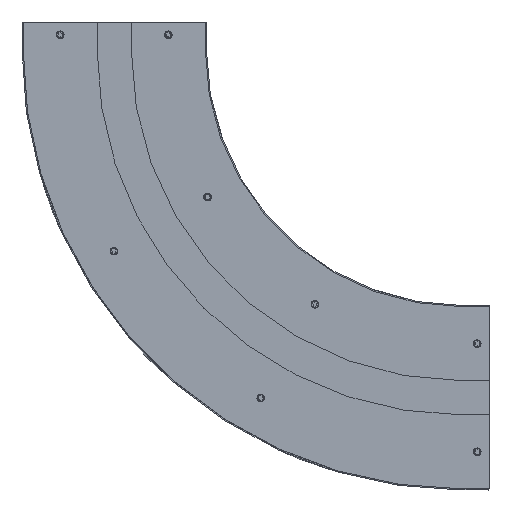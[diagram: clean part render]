
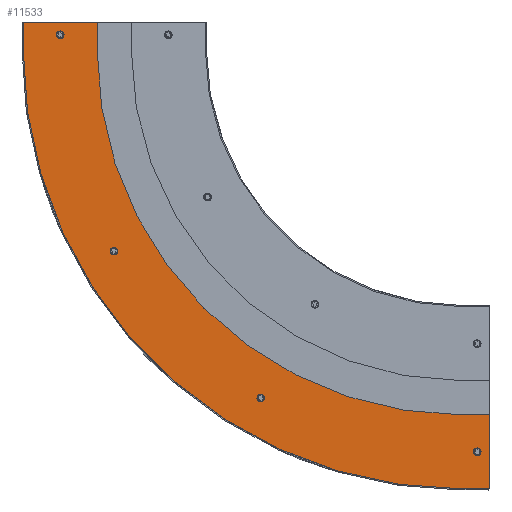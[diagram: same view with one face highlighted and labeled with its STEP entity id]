
A CAD part, front view. The second image highlights one B-rep face of the part: STEP entity #11533.
In plain terms, the highlighted planar face has unit normal (0, -1, 0) as drawn and (0, 1, 0) by its records, which use the part's own axes.
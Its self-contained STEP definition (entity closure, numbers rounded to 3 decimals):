
#228 = PLANE ( 'NONE',  #958 ) ;
#295 = CARTESIAN_POINT ( 'NONE',  ( 660., 30., -690. ) ) ;
#396 = DIRECTION ( 'NONE',  ( 0., 0., 1. ) ) ;
#429 = CIRCLE ( 'NONE', #7215, 6.75 ) ;
#430 = VECTOR ( 'NONE', #11339, 1000. ) ;
#447 = LINE ( 'NONE', #11440, #430 ) ;
#686 = AXIS2_PLACEMENT_3D ( 'NONE', #2757, #2740, #2728 ) ;
#958 = AXIS2_PLACEMENT_3D ( 'NONE', #2976, #12607, #396 ) ;
#1058 = EDGE_CURVE ( 'NONE', #6617, #14542, #429, .T. ) ;
#1425 = CIRCLE ( 'NONE', #12977, 6.75 ) ;
#1622 = CARTESIAN_POINT ( 'NONE',  ( 257.5, 30., -660.548 ) ) ;
#1738 = VECTOR ( 'NONE', #15680, 1000. ) ;
#1757 = DIRECTION ( 'NONE',  ( 0., 0., 1. ) ) ;
#1773 = VERTEX_POINT ( 'NONE', #2169 ) ;
#1780 = LINE ( 'NONE', #2605, #1738 ) ;
#1938 = VERTEX_POINT ( 'NONE', #12393 ) ;
#2169 = CARTESIAN_POINT ( 'NONE',  ( 610., 30., -820. ) ) ;
#2340 = CARTESIAN_POINT ( 'NONE',  ( -95., 30., -29.25 ) ) ;
#2576 = VERTEX_POINT ( 'NONE', #4975 ) ;
#2605 = CARTESIAN_POINT ( 'NONE',  ( -30., 30., -50. ) ) ;
#2651 = EDGE_CURVE ( 'NONE', #5596, #1773, #12566, .T. ) ;
#2689 = CARTESIAN_POINT ( 'NONE',  ( 637.5, 30., -761.75 ) ) ;
#2728 = DIRECTION ( 'NONE',  ( 0., 0., 1. ) ) ;
#2740 = DIRECTION ( 'NONE',  ( 0., 1., 0. ) ) ;
#2757 = CARTESIAN_POINT ( 'NONE',  ( -0.548, 30., -402.5 ) ) ;
#2770 = EDGE_CURVE ( 'NONE', #5596, #14225, #12244, .T. ) ;
#2797 = EDGE_CURVE ( 'NONE', #8801, #11331, #12148, .T. ) ;
#2954 = ORIENTED_EDGE ( 'NONE', *, *, #12066, .F. ) ;
#2976 = CARTESIAN_POINT ( 'NONE',  ( -160., 30., -50. ) ) ;
#3252 = DIRECTION ( 'NONE',  ( 0., 0., 1. ) ) ;
#3396 = DIRECTION ( 'NONE',  ( 0., 1., 0. ) ) ;
#3474 = CARTESIAN_POINT ( 'NONE',  ( 257.5, 30., -660.548 ) ) ;
#3512 = EDGE_LOOP ( 'NONE', ( #14148, #5740, #11154, #13895, #14300, #15854, #4235, #4360 ) ) ;
#3587 = CARTESIAN_POINT ( 'NONE',  ( -0.548, 30., -395.75 ) ) ;
#3812 = EDGE_CURVE ( 'NONE', #11331, #4260, #10540, .T. ) ;
#4034 = DIRECTION ( 'NONE',  ( 0., 0., 1. ) ) ;
#4179 = CARTESIAN_POINT ( 'NONE',  ( 610., 30., -690. ) ) ;
#4235 = ORIENTED_EDGE ( 'NONE', *, *, #2651, .F. ) ;
#4260 = VERTEX_POINT ( 'NONE', #13494 ) ;
#4261 = AXIS2_PLACEMENT_3D ( 'NONE', #11774, #15744, #15845 ) ;
#4360 = ORIENTED_EDGE ( 'NONE', *, *, #2770, .T. ) ;
#4975 = CARTESIAN_POINT ( 'NONE',  ( -95., 30., -15.75 ) ) ;
#5596 = VERTEX_POINT ( 'NONE', #13699 ) ;
#5740 = ORIENTED_EDGE ( 'NONE', *, *, #9466, .F. ) ;
#5920 = VERTEX_POINT ( 'NONE', #3587 ) ;
#6003 = DIRECTION ( 'NONE',  ( 0., -1., 0. ) ) ;
#6042 = AXIS2_PLACEMENT_3D ( 'NONE', #9319, #9302, #9299 ) ;
#6093 = CARTESIAN_POINT ( 'NONE',  ( 660., 30., -820. ) ) ;
#6215 = DIRECTION ( 'NONE',  ( 0., 1., 0. ) ) ;
#6236 = DIRECTION ( 'NONE',  ( 1., 0., 0. ) ) ;
#6394 = CIRCLE ( 'NONE', #7167, 6.75 ) ;
#6472 = AXIS2_PLACEMENT_3D ( 'NONE', #15225, #15207, #15194 ) ;
#6483 = EDGE_LOOP ( 'NONE', ( #14374, #14016 ) ) ;
#6614 = CARTESIAN_POINT ( 'NONE',  ( 257.5, 30., -653.798 ) ) ;
#6617 = VERTEX_POINT ( 'NONE', #2689 ) ;
#6718 = CARTESIAN_POINT ( 'NONE',  ( 610., 30., -50. ) ) ;
#6768 = DIRECTION ( 'NONE',  ( 0., 0., -1. ) ) ;
#6942 = CIRCLE ( 'NONE', #686, 6.75 ) ;
#7167 = AXIS2_PLACEMENT_3D ( 'NONE', #14153, #14064, #14018 ) ;
#7215 = AXIS2_PLACEMENT_3D ( 'NONE', #10349, #6215, #1757 ) ;
#7664 = CARTESIAN_POINT ( 'NONE',  ( 257.5, 30., -667.298 ) ) ;
#7931 = AXIS2_PLACEMENT_3D ( 'NONE', #6718, #6003, #6768 ) ;
#7999 = EDGE_LOOP ( 'NONE', ( #15789, #14965 ) ) ;
#8298 = CIRCLE ( 'NONE', #6042, 640. ) ;
#8719 = DIRECTION ( 'NONE',  ( 1., 0., 0. ) ) ;
#8747 = CARTESIAN_POINT ( 'NONE',  ( 610., 30., -820. ) ) ;
#8801 = VERTEX_POINT ( 'NONE', #13944 ) ;
#8804 = VERTEX_POINT ( 'NONE', #13552 ) ;
#9054 = CIRCLE ( 'NONE', #6472, 6.75 ) ;
#9163 = AXIS2_PLACEMENT_3D ( 'NONE', #10118, #10060, #9998 ) ;
#9299 = DIRECTION ( 'NONE',  ( 0., 0., -1. ) ) ;
#9302 = DIRECTION ( 'NONE',  ( 0., -1., 0. ) ) ;
#9319 = CARTESIAN_POINT ( 'NONE',  ( 610., 30., -50. ) ) ;
#9415 = ORIENTED_EDGE ( 'NONE', *, *, #9671, .F. ) ;
#9457 = AXIS2_PLACEMENT_3D ( 'NONE', #1622, #13880, #4034 ) ;
#9466 = EDGE_CURVE ( 'NONE', #8804, #9926, #1780, .T. ) ;
#9671 = EDGE_CURVE ( 'NONE', #10799, #13118, #1425, .T. ) ;
#9807 = CARTESIAN_POINT ( 'NONE',  ( -160., 30., -50. ) ) ;
#9926 = VERTEX_POINT ( 'NONE', #15341 ) ;
#9962 = EDGE_LOOP ( 'NONE', ( #9415, #14245 ) ) ;
#9998 = DIRECTION ( 'NONE',  ( 0., 0., 1. ) ) ;
#10060 = DIRECTION ( 'NONE',  ( 0., 1., 0. ) ) ;
#10118 = CARTESIAN_POINT ( 'NONE',  ( -95., 30., -22.5 ) ) ;
#10215 = EDGE_CURVE ( 'NONE', #9926, #14225, #447, .T. ) ;
#10349 = CARTESIAN_POINT ( 'NONE',  ( 637.5, 30., -755. ) ) ;
#10380 = DIRECTION ( 'NONE',  ( 0., 0., 1. ) ) ;
#10540 = LINE ( 'NONE', #6093, #10558 ) ;
#10558 = VECTOR ( 'NONE', #13549, 1000. ) ;
#10799 = VERTEX_POINT ( 'NONE', #6614 ) ;
#11154 = ORIENTED_EDGE ( 'NONE', *, *, #12917, .T. ) ;
#11331 = VERTEX_POINT ( 'NONE', #295 ) ;
#11339 = DIRECTION ( 'NONE',  ( -1., 0., 0. ) ) ;
#11440 = CARTESIAN_POINT ( 'NONE',  ( -160., 30., 0. ) ) ;
#11498 = EDGE_CURVE ( 'NONE', #13118, #10799, #14624, .T. ) ;
#11533 = ADVANCED_FACE ( 'NONE', ( #14577, #14510, #14491, #14481, #14587 ), #228, .T. ) ;
#11687 = VECTOR ( 'NONE', #8719, 1000. ) ;
#11706 = LINE ( 'NONE', #8747, #11687 ) ;
#11774 = CARTESIAN_POINT ( 'NONE',  ( -95., 30., -22.5 ) ) ;
#11869 = EDGE_CURVE ( 'NONE', #13768, #2576, #13983, .T. ) ;
#12066 = EDGE_CURVE ( 'NONE', #2576, #13768, #13709, .T. ) ;
#12133 = VECTOR ( 'NONE', #6236, 1000. ) ;
#12148 = LINE ( 'NONE', #4179, #12133 ) ;
#12212 = VECTOR ( 'NONE', #10380, 1000. ) ;
#12244 = LINE ( 'NONE', #9807, #12212 ) ;
#12393 = CARTESIAN_POINT ( 'NONE',  ( -0.548, 30., -409.25 ) ) ;
#12566 = CIRCLE ( 'NONE', #7931, 770. ) ;
#12607 = DIRECTION ( 'NONE',  ( 0., 1., 0. ) ) ;
#12893 = CARTESIAN_POINT ( 'NONE',  ( 637.5, 30., -748.25 ) ) ;
#12917 = EDGE_CURVE ( 'NONE', #8804, #8801, #8298, .T. ) ;
#12955 = EDGE_CURVE ( 'NONE', #1773, #4260, #11706, .T. ) ;
#12977 = AXIS2_PLACEMENT_3D ( 'NONE', #3474, #3396, #3252 ) ;
#13118 = VERTEX_POINT ( 'NONE', #7664 ) ;
#13272 = ORIENTED_EDGE ( 'NONE', *, *, #11869, .F. ) ;
#13494 = CARTESIAN_POINT ( 'NONE',  ( 660., 30., -820. ) ) ;
#13549 = DIRECTION ( 'NONE',  ( 0., 0., -1. ) ) ;
#13552 = CARTESIAN_POINT ( 'NONE',  ( -30., 30., -50. ) ) ;
#13699 = CARTESIAN_POINT ( 'NONE',  ( -160., 30., -50. ) ) ;
#13709 = CIRCLE ( 'NONE', #9163, 6.75 ) ;
#13768 = VERTEX_POINT ( 'NONE', #2340 ) ;
#13880 = DIRECTION ( 'NONE',  ( 0., 1., 0. ) ) ;
#13895 = ORIENTED_EDGE ( 'NONE', *, *, #2797, .T. ) ;
#13944 = CARTESIAN_POINT ( 'NONE',  ( 610., 30., -690. ) ) ;
#13983 = CIRCLE ( 'NONE', #4261, 6.75 ) ;
#14016 = ORIENTED_EDGE ( 'NONE', *, *, #14232, .F. ) ;
#14018 = DIRECTION ( 'NONE',  ( 0., 0., 1. ) ) ;
#14064 = DIRECTION ( 'NONE',  ( 0., 1., 0. ) ) ;
#14148 = ORIENTED_EDGE ( 'NONE', *, *, #10215, .F. ) ;
#14153 = CARTESIAN_POINT ( 'NONE',  ( 637.5, 30., -755. ) ) ;
#14163 = EDGE_LOOP ( 'NONE', ( #2954, #13272 ) ) ;
#14225 = VERTEX_POINT ( 'NONE', #15720 ) ;
#14232 = EDGE_CURVE ( 'NONE', #1938, #5920, #9054, .T. ) ;
#14245 = ORIENTED_EDGE ( 'NONE', *, *, #11498, .F. ) ;
#14300 = ORIENTED_EDGE ( 'NONE', *, *, #3812, .T. ) ;
#14374 = ORIENTED_EDGE ( 'NONE', *, *, #15386, .F. ) ;
#14481 = FACE_BOUND ( 'NONE', #9962, .T. ) ;
#14491 = FACE_BOUND ( 'NONE', #6483, .T. ) ;
#14510 = FACE_BOUND ( 'NONE', #7999, .T. ) ;
#14542 = VERTEX_POINT ( 'NONE', #12893 ) ;
#14577 = FACE_BOUND ( 'NONE', #14163, .T. ) ;
#14587 = FACE_OUTER_BOUND ( 'NONE', #3512, .T. ) ;
#14624 = CIRCLE ( 'NONE', #9457, 6.75 ) ;
#14965 = ORIENTED_EDGE ( 'NONE', *, *, #1058, .F. ) ;
#15194 = DIRECTION ( 'NONE',  ( 0., 0., 1. ) ) ;
#15207 = DIRECTION ( 'NONE',  ( 0., 1., 0. ) ) ;
#15225 = CARTESIAN_POINT ( 'NONE',  ( -0.548, 30., -402.5 ) ) ;
#15341 = CARTESIAN_POINT ( 'NONE',  ( -30., 30., 0. ) ) ;
#15386 = EDGE_CURVE ( 'NONE', #5920, #1938, #6942, .T. ) ;
#15680 = DIRECTION ( 'NONE',  ( 0., 0., 1. ) ) ;
#15719 = EDGE_CURVE ( 'NONE', #14542, #6617, #6394, .T. ) ;
#15720 = CARTESIAN_POINT ( 'NONE',  ( -160., 30., 0. ) ) ;
#15744 = DIRECTION ( 'NONE',  ( 0., 1., 0. ) ) ;
#15789 = ORIENTED_EDGE ( 'NONE', *, *, #15719, .F. ) ;
#15845 = DIRECTION ( 'NONE',  ( 0., 0., 1. ) ) ;
#15854 = ORIENTED_EDGE ( 'NONE', *, *, #12955, .F. ) ;
